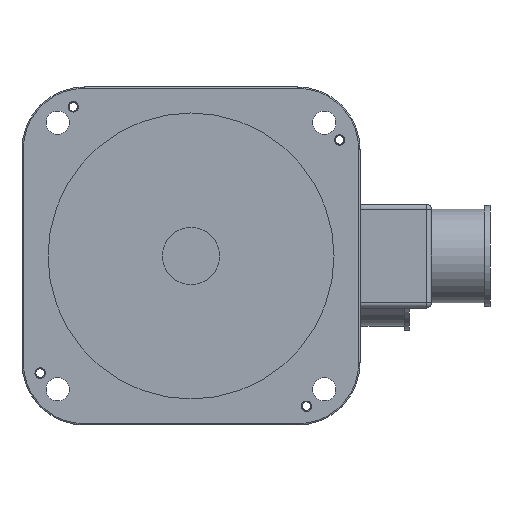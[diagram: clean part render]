
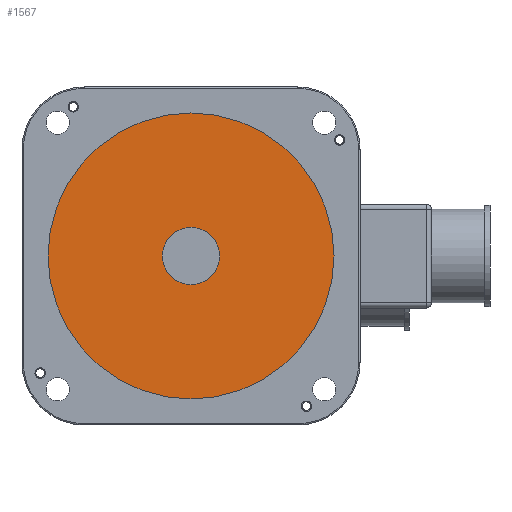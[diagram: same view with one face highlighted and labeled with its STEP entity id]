
A CAD part, left-side view. The second image highlights one B-rep face of the part: STEP entity #1567.
In plain terms, the highlighted planar face has unit normal (-1, 0, 0).
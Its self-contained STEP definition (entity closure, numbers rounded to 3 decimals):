
#179=FACE_BOUND('',#2224,.T.);
#180=FACE_BOUND('',#2225,.T.);
#524=PLANE('',#5413);
#676=CIRCLE('',#5406,11.);
#679=CIRCLE('',#5411,55.);
#1567=ADVANCED_FACE('',(#179,#180),#524,.F.);
#2224=EDGE_LOOP('',(#2816));
#2225=EDGE_LOOP('',(#2817));
#2816=ORIENTED_EDGE('',*,*,#4757,.T.);
#2817=ORIENTED_EDGE('',*,*,#4760,.F.);
#4286=VERTEX_POINT('',#8294);
#4289=VERTEX_POINT('',#8302);
#4757=EDGE_CURVE('',#4286,#4286,#676,.T.);
#4760=EDGE_CURVE('',#4289,#4289,#679,.T.);
#5406=AXIS2_PLACEMENT_3D('',#8293,#6267,#6268);
#5411=AXIS2_PLACEMENT_3D('',#8301,#6277,#6278);
#5413=AXIS2_PLACEMENT_3D('',#8304,#6281,#6282);
#6267=DIRECTION('',(1.,0.,0.));
#6268=DIRECTION('',(0.,1.,0.));
#6277=DIRECTION('',(1.,0.,0.));
#6278=DIRECTION('',(0.,1.,0.));
#6281=DIRECTION('',(1.,0.,0.));
#6282=DIRECTION('',(0.,0.,-1.));
#8293=CARTESIAN_POINT('',(52.,0.,0.));
#8294=CARTESIAN_POINT('',(52.,11.,0.));
#8301=CARTESIAN_POINT('',(52.,0.,0.));
#8302=CARTESIAN_POINT('',(52.,55.,0.));
#8304=CARTESIAN_POINT('',(52.,0.,0.));
